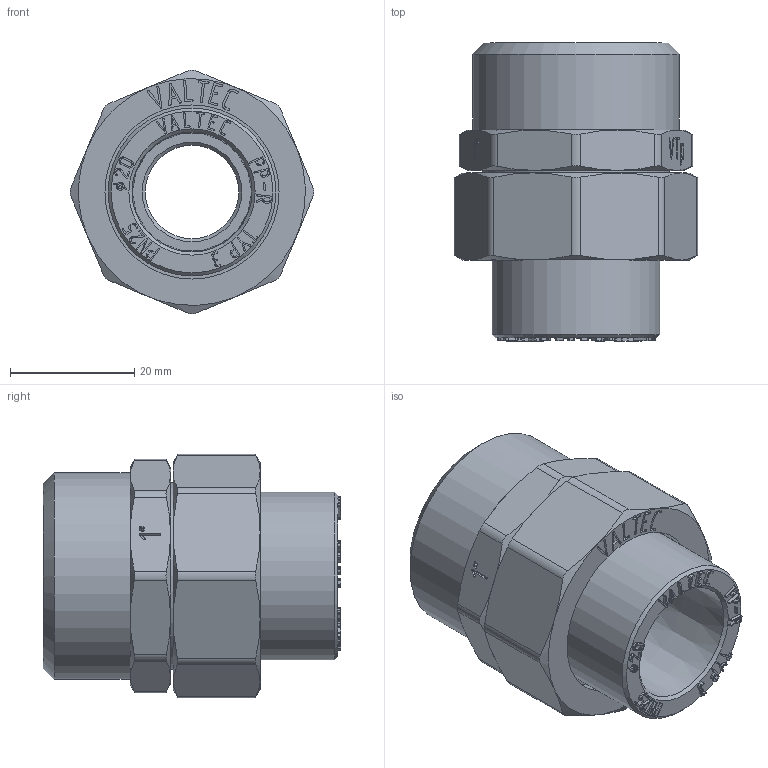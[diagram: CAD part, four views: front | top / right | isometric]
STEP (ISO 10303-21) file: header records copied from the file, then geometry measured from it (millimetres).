
FILE_DESCRIPTION(('STEP AP203'), '1');
FILE_NAME('VTp.761.0.02006', '', ('UNSPECIFIED'), ('UNSPECIFIED'), 'C3D Converter', 'C3D Toolkit', '');
FILE_SCHEMA(('CONFIG_CONTROL_DESIGN'));
Length unit declared in the file: millimetre
Products named in the file (1): ВР.302634.099.000 СБ
Bounding box: 39.18 x 47.9 x 39.18 mm (x, y, z)
Volume: 24844.7 mm3; surface area: 15663.4 mm2
Topology: 4 solids, 4 shells, 835 faces, 2297 edges, 1520 vertices
Faces by surface type: extrusion 451, plane 322, cylinder 30, cone 29, torus 3
Full cylindrical faces by diameter (mm): 15 x1, 18.8 x1, 22.6 x2, 25 x1, 27 x1, 28 x1, 28.2 x2, 30 x2, 30.292 x1, 33.249 x2
Entity records: 28908 total; most frequent: CARTESIAN_POINT 9684, ORIENTED_EDGE 4518, DIRECTION 2545, EDGE_CURVE 2259, VECTOR 1677, VERTEX_POINT 1515, B_SPLINE_CURVE_WITH_KNOTS 1430, LINE 1226
